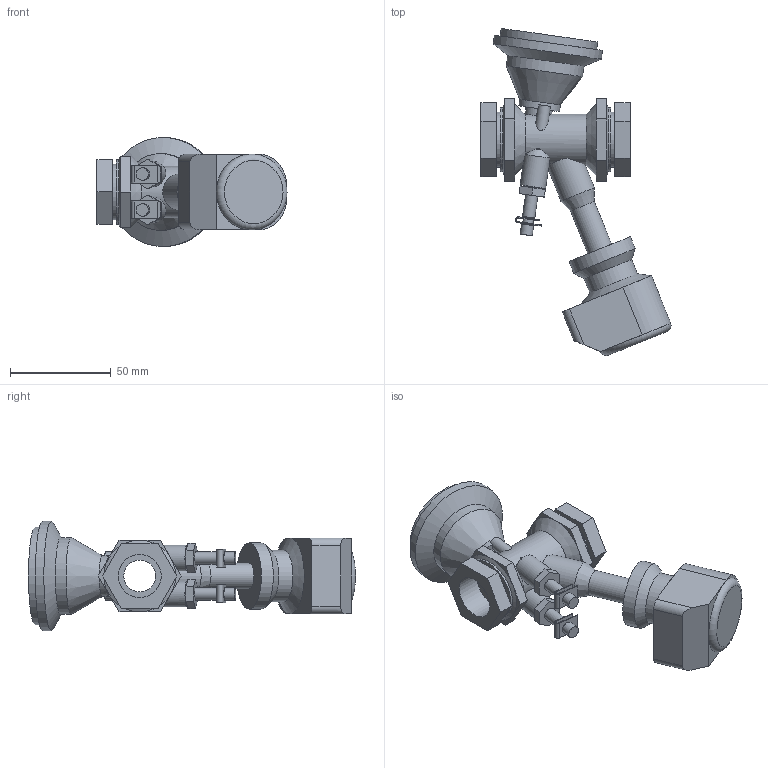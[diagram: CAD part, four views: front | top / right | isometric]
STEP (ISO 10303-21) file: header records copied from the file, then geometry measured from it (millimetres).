
FILE_DESCRIPTION(/* description */ ('VIC BALANCING AND CONTROL VALVE SERIES 7CP (FPT)-EMO 3','CAx-IF Rec.Pracs.---Representation and Presentation of Product Manufacturing Information (PMI)---4.0---2014-10-13'),/* implementation_level */ '2;1');
FILE_NAME(/* name */ 'C:\Users\Vjadhav\AppData\Roaming\Autodesk\ApplicationPlugins\Victaulic.Temp\A633\Victaulic_IPS_Valve Balancing Pressure Independent_TA Series 7CP (FPT)_EMO 3_0.5 (15).stp',/* time_stamp */ '2021-09-14T20:02:55+06:00',/* author */ ('Vjadhav'),/* organization */ ('Victaulic'),/* preprocessor_version */ 'ST-DEVELOPER v17.2',/* originating_system */ 'Autodesk Inventor 2019',/* authorisation */ '');
FILE_SCHEMA (('AP242_MANAGED_MODEL_BASED_3D_ENGINEERING_MIM_LF { 1 0 10303 442 1 1 4 }'));
Length unit declared in the file: inch
Products named in the file (2): 7CP_EMO 3-0.5; 7CP-0.5
Assembly tree (1 placements, depth 2):
  7CP_EMO 3-0.5
    7CP-0.5
Bounding box: 94.19 x 162.05 x 54.1 mm (x, y, z)
Volume: 143173.2 mm3; surface area: 38296.5 mm2
Topology: 1 solids, 1 shells, 177 faces, 455 edges, 302 vertices
Faces by surface type: plane 118, cylinder 47, cone 11, torus 1
Full cylindrical faces by diameter (mm): 5.08 x6, 6.096 x8, 12.649 x1, 12.7 x2, 15.799 x2, 17.78 x1, 20.32 x1, 21.336 x3, 25.4 x2, 27.432 x2, 31.75 x2, 32.766 x1, 37.631 x1, 38.1 x1, 48.26 x1, 54.102 x1
Entity records: 5957 total; most frequent: CARTESIAN_POINT 1182, DIRECTION 980, ORIENTED_EDGE 910, EDGE_CURVE 455, AXIS2_PLACEMENT_3D 366, VERTEX_POINT 302, LINE 248, VECTOR 248
